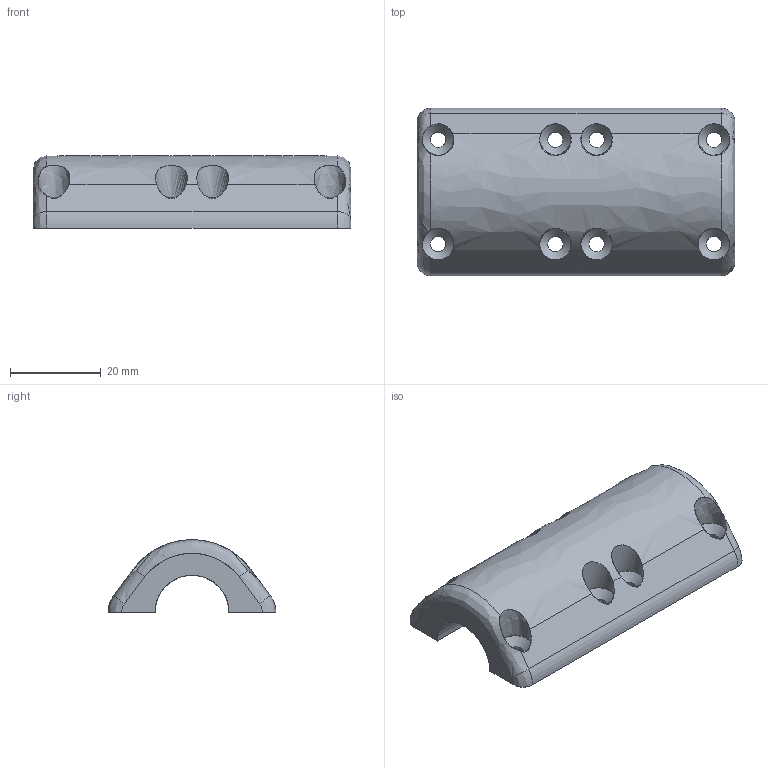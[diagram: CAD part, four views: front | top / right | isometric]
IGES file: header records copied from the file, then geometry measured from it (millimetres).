
Global section: file name: C:\Users\gehrichcr\Documents\1 Drive Backup\Practice\Inspire\V1.5\IGES\Boom Outer Joint 1.igs; native system: NX V8.5; preprocessor: SIEMENS PLM Software NX 8.5; date: 20150608.121152; units: millimetre
Bounding box: 70 x 37 x 16 mm (x, y, z)
Surface area: 8927.3 mm2 (no closed solid volume)
Topology: 0 solids, 0 shells, 68 faces, 698 edges, 690 vertices
Faces by surface type: bspline 68
